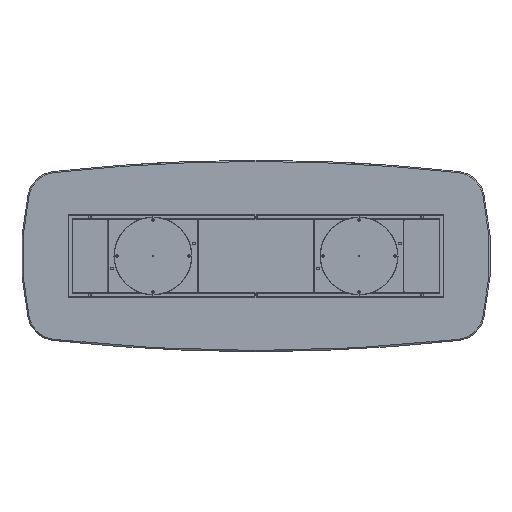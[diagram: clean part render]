
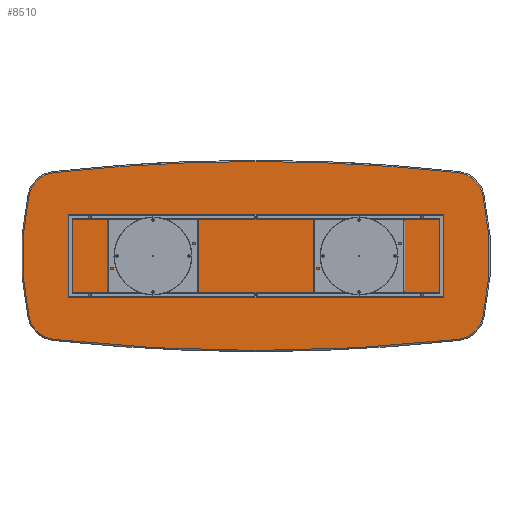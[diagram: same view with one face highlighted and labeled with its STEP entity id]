
A CAD part, front view. The second image highlights one B-rep face of the part: STEP entity #8510.
In plain terms, the highlighted planar face has unit normal (0, -1, 0).
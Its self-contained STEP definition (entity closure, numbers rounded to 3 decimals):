
#114 = CIRCLE ( 'NONE', #10021, 1892. ) ;
#272 = DIRECTION ( 'NONE',  ( 0., -1., 0. ) ) ;
#394 = EDGE_CURVE ( 'NONE', #4850, #2529, #11524, .T. ) ;
#429 = CARTESIAN_POINT ( 'NONE',  ( 1353.044, 0., 375.354 ) ) ;
#499 = DIRECTION ( 'NONE',  ( 0., 0., 1. ) ) ;
#565 = EDGE_CURVE ( 'NONE', #3060, #5335, #6695, .T. ) ;
#597 = ORIENTED_EDGE ( 'NONE', *, *, #2854, .T. ) ;
#1033 = DIRECTION ( 'NONE',  ( 0., 0., 1. ) ) ;
#1085 = AXIS2_PLACEMENT_3D ( 'NONE', #12053, #6662, #1033 ) ;
#1246 = CARTESIAN_POINT ( 'NONE',  ( -1540.305, 0., -417.747 ) ) ;
#1890 = CARTESIAN_POINT ( 'NONE',  ( -1353.044, 0., 375.354 ) ) ;
#1900 = DIRECTION ( 'NONE',  ( 0., 0., 1. ) ) ;
#2057 = FACE_OUTER_BOUND ( 'NONE', #12365, .T. ) ;
#2529 = VERTEX_POINT ( 'NONE', #14075 ) ;
#2826 = AXIS2_PLACEMENT_3D ( 'NONE', #1890, #5356, #8462 ) ;
#2854 = EDGE_CURVE ( 'NONE', #5335, #4850, #8321, .T. ) ;
#3036 = EDGE_CURVE ( 'NONE', #13973, #14143, #3271, .T. ) ;
#3060 = VERTEX_POINT ( 'NONE', #5225 ) ;
#3074 = VERTEX_POINT ( 'NONE', #9617 ) ;
#3271 = CIRCLE ( 'NONE', #14069, 192. ) ;
#3339 = DIRECTION ( 'NONE',  ( 0., 0., 1. ) ) ;
#3478 = CARTESIAN_POINT ( 'NONE',  ( 0., 0., -11850. ) ) ;
#3786 = ORIENTED_EDGE ( 'NONE', *, *, #3036, .T. ) ;
#3939 = AXIS2_PLACEMENT_3D ( 'NONE', #7342, #4041, #13958 ) ;
#4041 = DIRECTION ( 'NONE',  ( 0., -1., 0. ) ) ;
#4175 = DIRECTION ( 'NONE',  ( 0., -1., 0. ) ) ;
#4280 = AXIS2_PLACEMENT_3D ( 'NONE', #8067, #272, #9283 ) ;
#4321 = AXIS2_PLACEMENT_3D ( 'NONE', #7669, #7601, #4440 ) ;
#4440 = DIRECTION ( 'NONE',  ( 0., 0., 1. ) ) ;
#4725 = ORIENTED_EDGE ( 'NONE', *, *, #7087, .T. ) ;
#4792 = CIRCLE ( 'NONE', #1085, 12492. ) ;
#4850 = VERTEX_POINT ( 'NONE', #11125 ) ;
#4955 = CIRCLE ( 'NONE', #11836, 12492. ) ;
#4967 = CIRCLE ( 'NONE', #4280, 12492. ) ;
#5124 = ORIENTED_EDGE ( 'NONE', *, *, #10159, .T. ) ;
#5225 = CARTESIAN_POINT ( 'NONE',  ( 1374.165, 0., -566.188 ) ) ;
#5335 = VERTEX_POINT ( 'NONE', #7884 ) ;
#5356 = DIRECTION ( 'NONE',  ( 0., -1., 0. ) ) ;
#5367 = CIRCLE ( 'NONE', #2826, 192. ) ;
#5555 = VERTEX_POINT ( 'NONE', #7302 ) ;
#5672 = VERTEX_POINT ( 'NONE', #8384 ) ;
#6370 = DIRECTION ( 'NONE',  ( 0., -1., 0. ) ) ;
#6662 = DIRECTION ( 'NONE',  ( 0., -1., 0. ) ) ;
#6665 = PLANE ( 'NONE',  #4321 ) ;
#6695 = CIRCLE ( 'NONE', #3939, 192. ) ;
#7087 = EDGE_CURVE ( 'NONE', #3074, #5672, #5367, .T. ) ;
#7302 = CARTESIAN_POINT ( 'NONE',  ( 0., 0., 642. ) ) ;
#7303 = CARTESIAN_POINT ( 'NONE',  ( -1374.165, 0., -566.188 ) ) ;
#7342 = CARTESIAN_POINT ( 'NONE',  ( 1353.044, 0., -375.354 ) ) ;
#7378 = DIRECTION ( 'NONE',  ( 0., -1., 0. ) ) ;
#7601 = DIRECTION ( 'NONE',  ( 0., 1., 0. ) ) ;
#7669 = CARTESIAN_POINT ( 'NONE',  ( -152.5, 0., 5925. ) ) ;
#7884 = CARTESIAN_POINT ( 'NONE',  ( 1540.305, 0., -417.747 ) ) ;
#8067 = CARTESIAN_POINT ( 'NONE',  ( 0., 0., -11850. ) ) ;
#8321 = CIRCLE ( 'NONE', #9470, 1892. ) ;
#8384 = CARTESIAN_POINT ( 'NONE',  ( -1540.305, 0., 417.747 ) ) ;
#8462 = DIRECTION ( 'NONE',  ( 0., 0., 1. ) ) ;
#8510 = ADVANCED_FACE ( 'NONE', ( #2057 ), #6665, .F. ) ;
#8816 = ORIENTED_EDGE ( 'NONE', *, *, #9629, .T. ) ;
#9013 = ORIENTED_EDGE ( 'NONE', *, *, #565, .T. ) ;
#9283 = DIRECTION ( 'NONE',  ( 0., 0., 1. ) ) ;
#9470 = AXIS2_PLACEMENT_3D ( 'NONE', #12564, #7378, #1900 ) ;
#9574 = ORIENTED_EDGE ( 'NONE', *, *, #10444, .T. ) ;
#9617 = CARTESIAN_POINT ( 'NONE',  ( -1374.165, 0., 566.188 ) ) ;
#9629 = EDGE_CURVE ( 'NONE', #5555, #3074, #4955, .T. ) ;
#10021 = AXIS2_PLACEMENT_3D ( 'NONE', #14018, #4175, #12210 ) ;
#10159 = EDGE_CURVE ( 'NONE', #2529, #5555, #4967, .T. ) ;
#10444 = EDGE_CURVE ( 'NONE', #5672, #13973, #114, .T. ) ;
#10751 = ORIENTED_EDGE ( 'NONE', *, *, #13748, .T. ) ;
#10773 = DIRECTION ( 'NONE',  ( 0., 0., 1. ) ) ;
#11125 = CARTESIAN_POINT ( 'NONE',  ( 1540.305, 0., 417.747 ) ) ;
#11524 = CIRCLE ( 'NONE', #14051, 192. ) ;
#11836 = AXIS2_PLACEMENT_3D ( 'NONE', #3478, #13395, #10773 ) ;
#12053 = CARTESIAN_POINT ( 'NONE',  ( 0., 0., 11850. ) ) ;
#12210 = DIRECTION ( 'NONE',  ( 0., 0., 1. ) ) ;
#12365 = EDGE_LOOP ( 'NONE', ( #3786, #10751, #9013, #597, #12956, #5124, #8816, #4725, #9574 ) ) ;
#12564 = CARTESIAN_POINT ( 'NONE',  ( -305., 0., 0. ) ) ;
#12956 = ORIENTED_EDGE ( 'NONE', *, *, #394, .T. ) ;
#13395 = DIRECTION ( 'NONE',  ( 0., -1., 0. ) ) ;
#13607 = DIRECTION ( 'NONE',  ( 0., -1., 0. ) ) ;
#13748 = EDGE_CURVE ( 'NONE', #14143, #3060, #4792, .T. ) ;
#13958 = DIRECTION ( 'NONE',  ( 0., 0., 1. ) ) ;
#13973 = VERTEX_POINT ( 'NONE', #1246 ) ;
#14018 = CARTESIAN_POINT ( 'NONE',  ( 305., 0., 0. ) ) ;
#14051 = AXIS2_PLACEMENT_3D ( 'NONE', #429, #13607, #499 ) ;
#14069 = AXIS2_PLACEMENT_3D ( 'NONE', #14194, #6370, #3339 ) ;
#14075 = CARTESIAN_POINT ( 'NONE',  ( 1374.165, 0., 566.188 ) ) ;
#14143 = VERTEX_POINT ( 'NONE', #7303 ) ;
#14194 = CARTESIAN_POINT ( 'NONE',  ( -1353.044, 0., -375.354 ) ) ;
